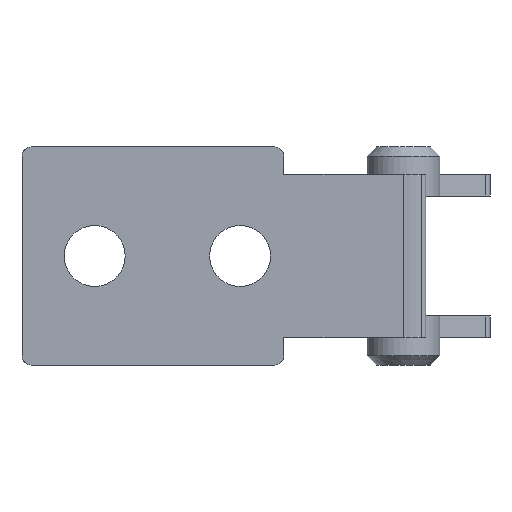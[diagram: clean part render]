
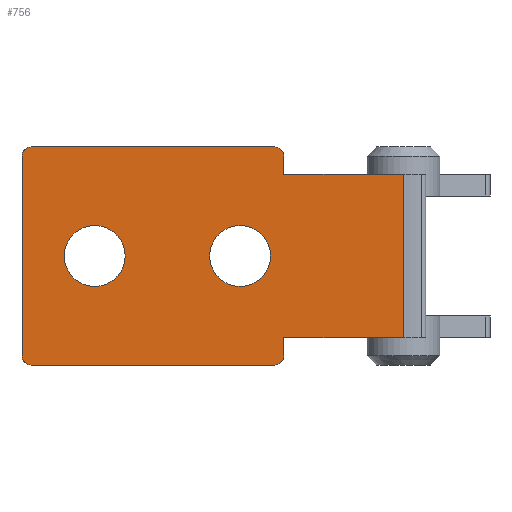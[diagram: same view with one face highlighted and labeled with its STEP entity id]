
A CAD part, front view. The second image highlights one B-rep face of the part: STEP entity #756.
In plain terms, the highlighted planar face has unit normal (0, -1, 0).
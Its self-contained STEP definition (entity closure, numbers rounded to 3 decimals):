
#224=CARTESIAN_POINT('',(192.789,154.27,6.0));
#225=VERTEX_POINT('',#224);
#226=CARTESIAN_POINT('',(191.114,154.27,6.));
#227=DIRECTION('',(0.0,1.0,0.0));
#228=DIRECTION('',(-1.0,0.0,0.0));
#229=AXIS2_PLACEMENT_3D('',#226,#227,#228);
#230=CIRCLE('',#229,1.675);
#231=EDGE_CURVE('',#225,#225,#230,.T.);
#252=CARTESIAN_POINT('',(184.789,154.27,6.));
#253=VERTEX_POINT('',#252);
#254=CARTESIAN_POINT('',(183.114,154.27,6.0));
#255=DIRECTION('',(0.0,1.0,0.0));
#256=DIRECTION('',(-1.0,0.0,0.0));
#257=AXIS2_PLACEMENT_3D('',#254,#255,#256);
#258=CIRCLE('',#257,1.675);
#259=EDGE_CURVE('',#253,#253,#258,.T.);
#311=CARTESIAN_POINT('',(193.514,154.27,0.5));
#312=VERTEX_POINT('',#311);
#313=CARTESIAN_POINT('',(193.014,154.27,0.0));
#314=VERTEX_POINT('',#313);
#315=CARTESIAN_POINT('',(193.014,154.27,0.5));
#316=DIRECTION('',(0.0,1.0,0.0));
#317=DIRECTION('',(0.707,0.0,-0.707));
#318=AXIS2_PLACEMENT_3D('',#315,#316,#317);
#319=CIRCLE('',#318,0.5);
#320=EDGE_CURVE('',#312,#314,#319,.T.);
#375=CARTESIAN_POINT('',(179.614,154.27,0.0));
#376=VERTEX_POINT('',#375);
#377=CARTESIAN_POINT('',(179.114,154.27,0.5));
#378=VERTEX_POINT('',#377);
#379=CARTESIAN_POINT('',(179.614,154.27,0.5));
#380=DIRECTION('',(0.0,1.0,0.0));
#381=DIRECTION('',(-0.707,0.0,-0.707));
#382=AXIS2_PLACEMENT_3D('',#379,#380,#381);
#383=CIRCLE('',#382,0.5);
#384=EDGE_CURVE('',#376,#378,#383,.T.);
#416=CARTESIAN_POINT('',(193.514,154.27,1.5));
#417=VERTEX_POINT('',#416);
#424=CARTESIAN_POINT('',(193.514,154.27,0.5));
#425=DIRECTION('',(0.0,0.0,1.0));
#426=VECTOR('',#425,1.);
#427=LINE('',#424,#426);
#428=EDGE_CURVE('',#312,#417,#427,.T.);
#503=CARTESIAN_POINT('',(179.114,154.27,11.5));
#504=VERTEX_POINT('',#503);
#505=CARTESIAN_POINT('',(179.114,154.27,0.5));
#506=DIRECTION('',(0.0,0.0,1.0));
#507=VECTOR('',#506,11.);
#508=LINE('',#505,#507);
#509=EDGE_CURVE('',#378,#504,#508,.T.);
#558=CARTESIAN_POINT('',(193.014,154.27,12.));
#559=VERTEX_POINT('',#558);
#560=CARTESIAN_POINT('',(193.514,154.27,11.5));
#561=VERTEX_POINT('',#560);
#562=CARTESIAN_POINT('',(193.014,154.27,11.5));
#563=DIRECTION('',(0.0,1.,0.0));
#564=DIRECTION('',(0.707,0.0,0.707));
#565=AXIS2_PLACEMENT_3D('',#562,#563,#564);
#566=CIRCLE('',#565,0.5);
#567=EDGE_CURVE('',#559,#561,#566,.T.);
#600=CARTESIAN_POINT('',(179.614,154.27,12.));
#601=VERTEX_POINT('',#600);
#602=CARTESIAN_POINT('',(179.614,154.27,11.5));
#603=DIRECTION('',(0.0,1.,0.0));
#604=DIRECTION('',(-0.707,0.0,0.707));
#605=AXIS2_PLACEMENT_3D('',#602,#603,#604);
#606=CIRCLE('',#605,0.5);
#607=EDGE_CURVE('',#504,#601,#606,.T.);
#691=CARTESIAN_POINT('',(193.014,154.27,12.));
#692=DIRECTION('',(-1.0,0.0,0.0));
#693=VECTOR('',#692,13.4);
#694=LINE('',#691,#693);
#695=EDGE_CURVE('',#559,#601,#694,.T.);
#700=CARTESIAN_POINT('',(200.114,154.27,0.0));
#701=DIRECTION('',(0.0,-1.0,0.0));
#702=DIRECTION('',(0.0,0.0,-1.0));
#703=AXIS2_PLACEMENT_3D('',#700,#701,#702);
#704=PLANE('',#703);
#705=ORIENTED_EDGE('',*,*,#320,.F.);
#706=ORIENTED_EDGE('',*,*,#428,.T.);
#707=CARTESIAN_POINT('',(200.114,154.27,1.5));
#708=VERTEX_POINT('',#707);
#709=CARTESIAN_POINT('',(193.514,154.27,1.5));
#710=DIRECTION('',(1.0,0.0,0.0));
#711=VECTOR('',#710,6.6);
#712=LINE('',#709,#711);
#713=EDGE_CURVE('',#417,#708,#712,.T.);
#714=ORIENTED_EDGE('',*,*,#713,.T.);
#715=CARTESIAN_POINT('',(200.114,154.27,10.5));
#716=VERTEX_POINT('',#715);
#717=CARTESIAN_POINT('',(200.114,154.27,1.5));
#718=DIRECTION('',(0.0,0.0,1.0));
#719=VECTOR('',#718,9.0);
#720=LINE('',#717,#719);
#721=EDGE_CURVE('',#708,#716,#720,.T.);
#722=ORIENTED_EDGE('',*,*,#721,.T.);
#723=CARTESIAN_POINT('',(193.514,154.27,10.5));
#724=VERTEX_POINT('',#723);
#725=CARTESIAN_POINT('',(200.114,154.27,10.5));
#726=DIRECTION('',(-1.0,0.0,0.0));
#727=VECTOR('',#726,6.6);
#728=LINE('',#725,#727);
#729=EDGE_CURVE('',#716,#724,#728,.T.);
#730=ORIENTED_EDGE('',*,*,#729,.T.);
#731=CARTESIAN_POINT('',(193.514,154.27,10.5));
#732=DIRECTION('',(0.0,0.0,1.0));
#733=VECTOR('',#732,1.0);
#734=LINE('',#731,#733);
#735=EDGE_CURVE('',#724,#561,#734,.T.);
#736=ORIENTED_EDGE('',*,*,#735,.T.);
#737=ORIENTED_EDGE('',*,*,#567,.F.);
#738=ORIENTED_EDGE('',*,*,#695,.T.);
#739=ORIENTED_EDGE('',*,*,#607,.F.);
#740=ORIENTED_EDGE('',*,*,#509,.F.);
#741=ORIENTED_EDGE('',*,*,#384,.F.);
#742=CARTESIAN_POINT('',(179.614,154.27,0.0));
#743=DIRECTION('',(1.0,0.0,0.0));
#744=VECTOR('',#743,13.4);
#745=LINE('',#742,#744);
#746=EDGE_CURVE('',#376,#314,#745,.T.);
#747=ORIENTED_EDGE('',*,*,#746,.T.);
#748=EDGE_LOOP('',(#705,#706,#714,#722,#730,#736,#737,#738,#739,#740,#741,#747));
#749=FACE_OUTER_BOUND('',#748,.T.);
#750=ORIENTED_EDGE('',*,*,#231,.T.);
#751=EDGE_LOOP('',(#750));
#752=FACE_BOUND('',#751,.T.);
#753=ORIENTED_EDGE('',*,*,#259,.T.);
#754=EDGE_LOOP('',(#753));
#755=FACE_BOUND('',#754,.T.);
#756=ADVANCED_FACE('',(#749,#752,#755),#704,.T.);
